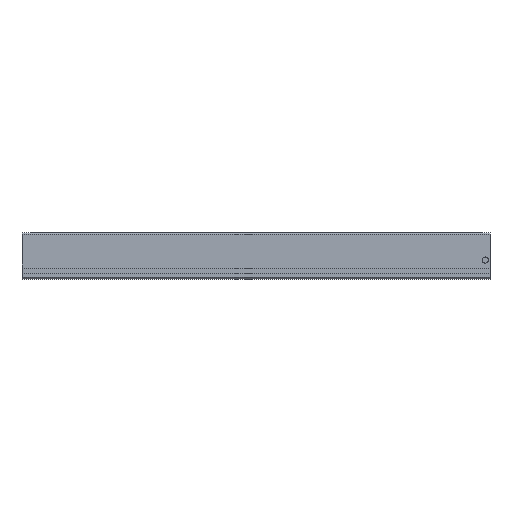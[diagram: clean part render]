
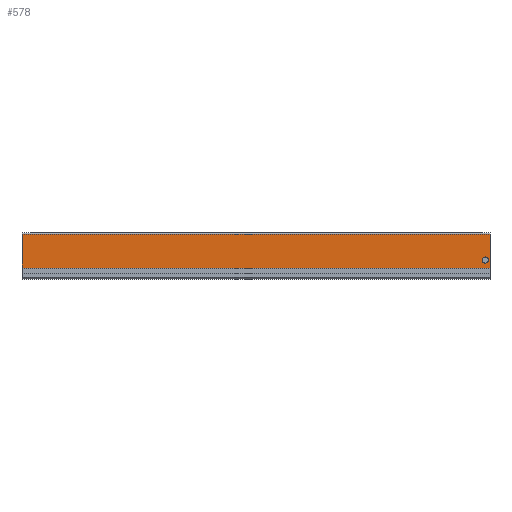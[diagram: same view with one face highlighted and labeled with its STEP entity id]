
A CAD part, top view. The second image highlights one B-rep face of the part: STEP entity #578.
In plain terms, the highlighted planar face has unit normal (0, 0, 1).
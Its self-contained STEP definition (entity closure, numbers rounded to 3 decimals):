
#18 = ORIENTED_EDGE ( 'NONE', *, *, #129, .T. ) ;
#23 = LINE ( 'NONE', #595, #513 ) ;
#24 = LINE ( 'NONE', #201, #1147 ) ;
#91 = CARTESIAN_POINT ( 'NONE',  ( 0., 0., 0. ) ) ;
#129 = EDGE_CURVE ( 'NONE', #1718, #2178, #24, .T. ) ;
#188 = DIRECTION ( 'NONE',  ( -1., 0., 0. ) ) ;
#201 = CARTESIAN_POINT ( 'NONE',  ( 0., 6.6, 0. ) ) ;
#203 = VERTEX_POINT ( 'NONE', #2161 ) ;
#217 = CIRCLE ( 'NONE', #522, 1.85 ) ;
#241 = ORIENTED_EDGE ( 'NONE', *, *, #764, .F. ) ;
#267 = EDGE_LOOP ( 'NONE', ( #2144, #241 ) ) ;
#275 = CARTESIAN_POINT ( 'NONE',  ( 280., 6.6, 0. ) ) ;
#277 = EDGE_CURVE ( 'NONE', #1785, #1718, #466, .T. ) ;
#286 = FACE_BOUND ( 'NONE', #267, .T. ) ;
#328 = AXIS2_PLACEMENT_3D ( 'NONE', #1223, #1395, #516 ) ;
#359 = CARTESIAN_POINT ( 'NONE',  ( 277.15, 11.392, 0. ) ) ;
#371 = ORIENTED_EDGE ( 'NONE', *, *, #1564, .F. ) ;
#466 = LINE ( 'NONE', #91, #730 ) ;
#513 = VECTOR ( 'NONE', #2234, 1000. ) ;
#516 = DIRECTION ( 'NONE',  ( -1., 0., 0. ) ) ;
#522 = AXIS2_PLACEMENT_3D ( 'NONE', #359, #1996, #1423 ) ;
#578 = ADVANCED_FACE ( 'NONE', ( #286, #1421 ), #688, .F. ) ;
#595 = CARTESIAN_POINT ( 'NONE',  ( 280., 0., 0. ) ) ;
#636 = ORIENTED_EDGE ( 'NONE', *, *, #277, .T. ) ;
#656 = DIRECTION ( 'NONE',  ( 0., 0., 1. ) ) ;
#662 = DIRECTION ( 'NONE',  ( -1., 0., 0. ) ) ;
#685 = EDGE_CURVE ( 'NONE', #1609, #1785, #1480, .T. ) ;
#688 = PLANE ( 'NONE',  #328 ) ;
#730 = VECTOR ( 'NONE', #2264, 1000. ) ;
#764 = EDGE_CURVE ( 'NONE', #203, #1759, #217, .T. ) ;
#890 = EDGE_LOOP ( 'NONE', ( #371, #1057, #636, #18 ) ) ;
#992 = VECTOR ( 'NONE', #188, 1000. ) ;
#1026 = CARTESIAN_POINT ( 'NONE',  ( 275.3, 11.392, 0. ) ) ;
#1057 = ORIENTED_EDGE ( 'NONE', *, *, #685, .T. ) ;
#1098 = EDGE_CURVE ( 'NONE', #1759, #203, #1793, .T. ) ;
#1147 = VECTOR ( 'NONE', #1645, 1000. ) ;
#1223 = CARTESIAN_POINT ( 'NONE',  ( 280., 0., 0. ) ) ;
#1395 = DIRECTION ( 'NONE',  ( 0., 0., -1. ) ) ;
#1421 = FACE_OUTER_BOUND ( 'NONE', #890, .T. ) ;
#1423 = DIRECTION ( 'NONE',  ( -1., 0., 0. ) ) ;
#1480 = LINE ( 'NONE', #2186, #992 ) ;
#1523 = CARTESIAN_POINT ( 'NONE',  ( 280., 26.7, 0. ) ) ;
#1564 = EDGE_CURVE ( 'NONE', #1609, #2178, #23, .T. ) ;
#1568 = AXIS2_PLACEMENT_3D ( 'NONE', #2134, #656, #662 ) ;
#1609 = VERTEX_POINT ( 'NONE', #1523 ) ;
#1645 = DIRECTION ( 'NONE',  ( 1., 0., 0. ) ) ;
#1718 = VERTEX_POINT ( 'NONE', #1753 ) ;
#1753 = CARTESIAN_POINT ( 'NONE',  ( 0., 6.6, 0. ) ) ;
#1759 = VERTEX_POINT ( 'NONE', #1026 ) ;
#1785 = VERTEX_POINT ( 'NONE', #1946 ) ;
#1793 = CIRCLE ( 'NONE', #1568, 1.85 ) ;
#1946 = CARTESIAN_POINT ( 'NONE',  ( 0., 26.7, 0. ) ) ;
#1996 = DIRECTION ( 'NONE',  ( 0., 0., 1. ) ) ;
#2134 = CARTESIAN_POINT ( 'NONE',  ( 277.15, 11.392, 0. ) ) ;
#2144 = ORIENTED_EDGE ( 'NONE', *, *, #1098, .F. ) ;
#2161 = CARTESIAN_POINT ( 'NONE',  ( 279., 11.392, 0. ) ) ;
#2178 = VERTEX_POINT ( 'NONE', #275 ) ;
#2186 = CARTESIAN_POINT ( 'NONE',  ( 280., 26.7, 0. ) ) ;
#2234 = DIRECTION ( 'NONE',  ( 0., -1., 0. ) ) ;
#2264 = DIRECTION ( 'NONE',  ( 0., -1., 0. ) ) ;
